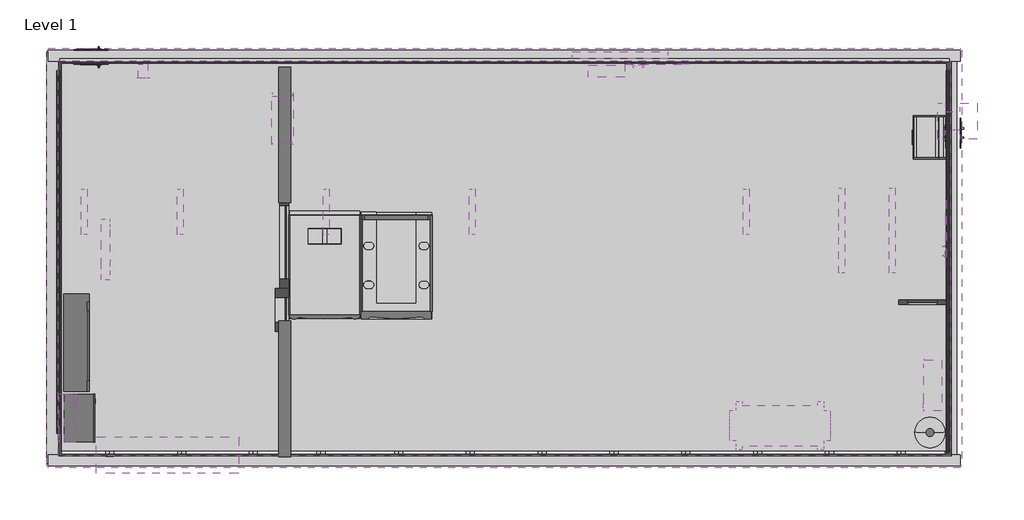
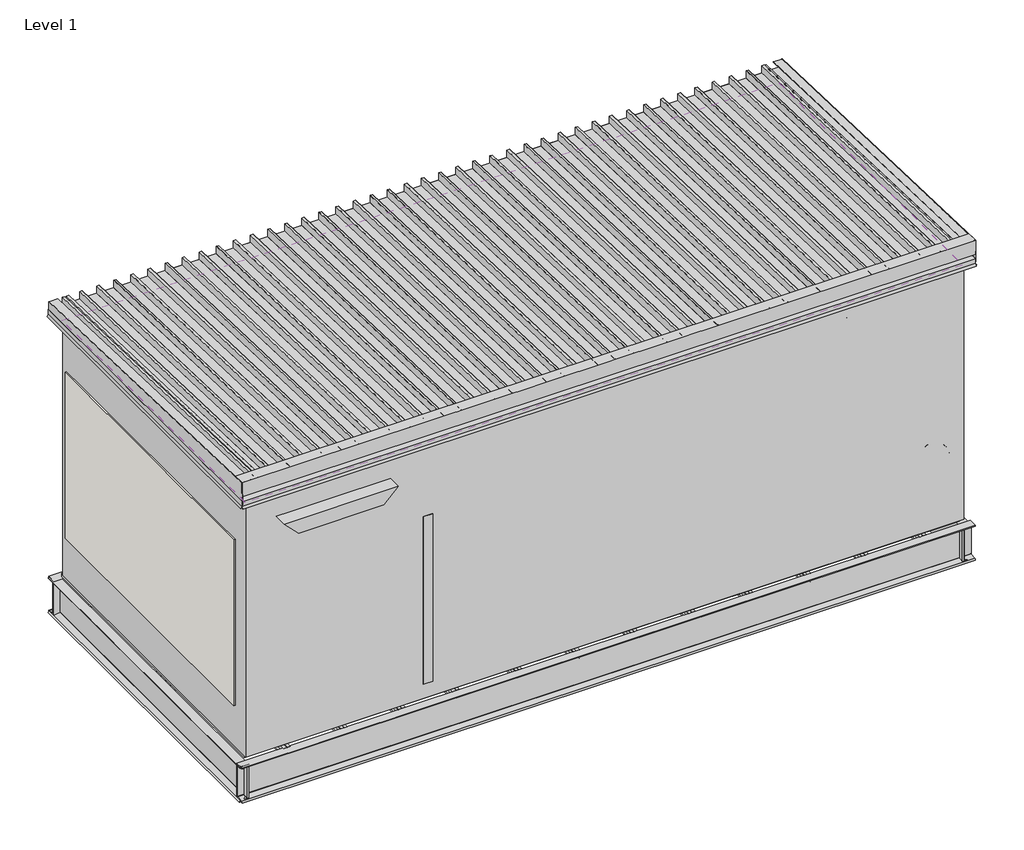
# One storey, incomplete: 22 beams, 18 proxies, 7 cable carrier fittings, 3 walls, 2 plates, 1 alarm, 1 covering.
"""IFC4 building model written with IfcOpenShell, lengths in millimetres."""

from ifc_helpers import new_model, si_unit, frame, origin, place, context, project, spatial, polyline, outline, extrude, transform, mapped, element, save
from components import cylinder_1_cylinder_1_a0b04ee7, beam_a0ba30f1, beam_48770743, base_cover_40kw_base_cover_40kw_a4d79b44, c381x94_58a36d87, c381x94_26746bf0, c381x96_e7f4985d, c381x96_1e17e779, foot_stand_and_door_shade_foot_stand_and_door_shade_9e24d134, i_channel_153x157_b665bd47, i_channel_2c100x6_7_e83eee92, i_channel_2c100x6_7_0b379793, roof_40kw_roof_40kw_a1198938, roof_40kw_roof_40kw_301b227a, electrical_equipment_14537a31, mechanical_equipment_66c16102, electrical_equipment_2e28253e, electrical_equipment_7de670ac, electrical_equipment_2ad26752, electrical_equipment_ff54cd8f, electrical_equipment_354cecee, proxy_120v_outlet_120v_outlet_0315f664, proxy_480v_208v_dbe15ef4, acf301em_404c859c, cp_100_control_panel_810ad4ae, climate_control_climate_control_2b801170, e2m_access_control_panel_011aee9f, fire_alarm_control_panel_67536681, generator_annunciator_panel_2783cb85, i_line_power_distribution_panel_board_enclosure_cbae9e6e, type_1_dec37a97, type_1_306bd327, hanger_cabletray_hanger_cabletray_1b30f011, hanger_cabletray_hanger_cabletray_7256ed64, system_panel_glazed_24b3d340, system_panel_glazed_cc63b6be

model = new_model("IFC4")

# Units and contexts
model_context = context("Model", 3, world=origin())
ifc_project = project(units=[si_unit("LENGTHUNIT", "METRE", prefix="MILLI")], contexts=[model_context])

# Site, building, storey
site = spatial("IfcSite", under=ifc_project)
building = spatial("IfcBuilding", under=site)
storey = spatial("IfcBuildingStorey", under=building, Name="Level 1", Elevation=0.0)

# Alarm
placement = place(None, origin())
cylinder_1_cylinder_1_shape = cylinder_1_cylinder_1_a0b04ee7(model_context)
element("IfcAlarm", 1, ObjectType="Cylinder-1 : Cylinder-1", at=placement, inside=storey, context=model_context, shape_type="MappedRepresentation", body=[
    mapped(cylinder_1_cylinder_1_shape, transform((3146.0911977, -3212.6424008, 424.0), x_axis=(1.0, 0.0, 0.0), y_axis=(0.0, 1.0, 0.0), z_axis=(0.0, 0.0, 1.0))),
])

# Beams
beam_shape = beam_a0ba30f1(model_context)
element("IfcBeam", 2, ObjectType="Insulation_config1 : Insulation_config1", at=placement, inside=storey, context=model_context, shape_type="MappedRepresentation", body=[
    mapped(beam_shape, transform((-4885.8033783, -3270.5466438, 0.0), x_axis=(1.0, 0.0, 0.0), y_axis=(0.0, 1.0, 0.0), z_axis=(0.0, 0.0, 1.0))),
])
beam_2_shape = beam_48770743(model_context)
element("IfcBeam", 3, ObjectType="Inside partition_Config1 : Inside partition_Config1", at=placement, inside=storey, context=model_context, shape_type="MappedRepresentation", body=[
    mapped(beam_2_shape, transform((-4881.0431616, -3258.0939026, 0.0), x_axis=(1.0, 0.0, 0.0), y_axis=(0.0, 1.0, 0.0), z_axis=(0.0, 0.0, 1.0))),
])
base_cover_40kw_base_cover_40kw_shape = base_cover_40kw_base_cover_40kw_a4d79b44(model_context)
element("IfcBeam", 4, ObjectType="Base_cover_40kW : Base_cover_40kW", at=placement, inside=storey, context=model_context, shape_type="MappedRepresentation", body=[
    mapped(base_cover_40kw_base_cover_40kw_shape, transform((-410.1108023, -1725.0452169, 0.0), x_axis=(1.0, 0.0, 0.0), y_axis=(0.0, 1.0, 0.0), z_axis=(0.0, 0.0, 1.0))),
])
c381x94_shape = c381x94_58a36d87(model_context)
element("IfcBeam", 5, ObjectType="M_C-Channel_305x105 : C381x94", at=placement, inside=storey, context=model_context, shape_type="MappedRepresentation", body=[
    mapped(c381x94_shape, transform((1621.9411968, -94.1542185, 190.5), x_axis=(-1.0, 0.0, 0.0), y_axis=(0.0, -1.0, 0.0), z_axis=(0.0, 0.0, 1.0))),
])
c381x94_2_shape = c381x94_26746bf0(model_context)
element("IfcBeam", 6, ObjectType="M_C-Channel_305x105 : C381x94", at=placement, inside=storey, context=model_context, shape_type="MappedRepresentation", body=[
    mapped(c381x94_2_shape, transform((4579.3711968, -3412.6642154, 190.5), x_axis=(-1.0, 0.0, 0.0), y_axis=(0.0, -1.0, 0.0), z_axis=(0.0, 0.0, 1.0))),
])
c381x96_shape = c381x96_e7f4985d(model_context)
element("IfcBeam", 7, ObjectType="M_C-Channel_305x105 : C381x96", at=placement, inside=storey, context=model_context, shape_type="MappedRepresentation", body=[
    mapped(c381x96_shape, transform((-4155.0018007, 50.6370472, 189.0), x_axis=(0.0, -1.0, 0.0), y_axis=(1.0, 0.0, 0.0), z_axis=(0.0, 0.0, 1.0))),
])
c381x96_2_shape = c381x96_1e17e779(model_context)
element("IfcBeam", 8, ObjectType="M_C-Channel_305x105 : C381x96", at=placement, inside=storey, context=model_context, shape_type="MappedRepresentation", body=[
    mapped(c381x96_2_shape, transform((3292.1211953, 50.6370472, 189.0), x_axis=(0.0, -1.0, 0.0), y_axis=(1.0, 0.0, 0.0), z_axis=(0.0, 0.0, 1.0))),
])
foot_stand_and_door_shade_foot_stand_and_door_shade_shape = foot_stand_and_door_shade_foot_stand_and_door_shade_9e24d134(model_context)
element("IfcBeam", 9, ObjectType="Foot Stand and Door shade : Foot Stand and Door shade", at=placement, inside=storey, context=model_context, shape_type="MappedRepresentation", body=[
    mapped(foot_stand_and_door_shade_foot_stand_and_door_shade_shape, transform((-3878.9508023, -3802.0092181, 0.0), x_axis=(1.0, 0.0, 0.0), y_axis=(0.0, 1.0, 0.0), z_axis=(0.0, 0.0, 1.0))),
])
i_channel_153x157_shape = i_channel_153x157_b665bd47(model_context)
element("IfcBeam", 10, ObjectType="I Channel : 153x157", at=placement, inside=storey, context=model_context, shape_type="MappedRepresentation", body=[
    mapped(i_channel_153x157_shape, transform((-1017.7885357, -1750.0452169, 202.5), x_axis=(1.0, 0.0, 0.0), y_axis=(0.0, 1.0, 0.0), z_axis=(0.0, 0.0, 1.0))),
])
i_channel_2c100x6_7_shape = i_channel_2c100x6_7_e83eee92(model_context)
element("IfcBeam", 11, ObjectType="I Channel : 2C100X6.7", at=placement, inside=storey, context=model_context, shape_type="MappedRepresentation", body=[
    mapped(i_channel_2c100x6_7_shape, transform((2906.0911977, -803.3983096, 332.5), x_axis=(0.0, -1.0, 0.0), y_axis=(1.0, 0.0, 0.0), z_axis=(0.0, 0.0, 1.0))),
])
element("IfcBeam", 12, ObjectType="I Channel : 2C100X6.7", at=placement, inside=storey, context=model_context, shape_type="MappedRepresentation", body=[
    mapped(i_channel_2c100x6_7_shape, transform((2306.0911977, -803.3983096, 332.5), x_axis=(0.0, -1.0, 0.0), y_axis=(1.0, 0.0, 0.0), z_axis=(0.0, 0.0, 1.0))),
])
element("IfcBeam", 13, ObjectType="I Channel : 2C100X6.7", at=placement, inside=storey, context=model_context, shape_type="MappedRepresentation", body=[
    mapped(i_channel_2c100x6_7_shape, transform((1706.0911977, -803.3983096, 332.5), x_axis=(0.0, -1.0, 0.0), y_axis=(1.0, 0.0, 0.0), z_axis=(0.0, 0.0, 1.0))),
])
element("IfcBeam", 14, ObjectType="I Channel : 2C100X6.7", at=placement, inside=storey, context=model_context, shape_type="MappedRepresentation", body=[
    mapped(i_channel_2c100x6_7_shape, transform((-1942.5318032, -803.3983096, 332.5), x_axis=(0.0, -1.0, 0.0), y_axis=(1.0, 0.0, 0.0), z_axis=(0.0, 0.0, 1.0))),
])
element("IfcBeam", 15, ObjectType="I Channel : 2C100X6.7", at=placement, inside=storey, context=model_context, shape_type="MappedRepresentation", body=[
    mapped(i_channel_2c100x6_7_shape, transform((1106.0911977, -803.3983096, 332.5), x_axis=(0.0, -1.0, 0.0), y_axis=(1.0, 0.0, 0.0), z_axis=(0.0, 0.0, 1.0))),
])
element("IfcBeam", 16, ObjectType="I Channel : 2C100X6.7", at=placement, inside=storey, context=model_context, shape_type="MappedRepresentation", body=[
    mapped(i_channel_2c100x6_7_shape, transform((-93.9088023, -803.3983096, 332.5), x_axis=(0.0, -1.0, 0.0), y_axis=(1.0, 0.0, 0.0), z_axis=(0.0, 0.0, 1.0))),
])
element("IfcBeam", 17, ObjectType="I Channel : 2C100X6.7", at=placement, inside=storey, context=model_context, shape_type="MappedRepresentation", body=[
    mapped(i_channel_2c100x6_7_shape, transform((-693.9088023, -803.3983096, 332.5), x_axis=(0.0, -1.0, 0.0), y_axis=(1.0, 0.0, 0.0), z_axis=(0.0, 0.0, 1.0))),
])
element("IfcBeam", 18, ObjectType="I Channel : 2C100X6.7", at=placement, inside=storey, context=model_context, shape_type="MappedRepresentation", body=[
    mapped(i_channel_2c100x6_7_shape, transform((-1293.9088023, -803.3983096, 332.5), x_axis=(0.0, -1.0, 0.0), y_axis=(1.0, 0.0, 0.0), z_axis=(0.0, 0.0, 1.0))),
])
element("IfcBeam", 19, ObjectType="I Channel : 2C100X6.7", at=placement, inside=storey, context=model_context, shape_type="MappedRepresentation", body=[
    mapped(i_channel_2c100x6_7_shape, transform((-3107.1108023, -803.3983096, 332.5), x_axis=(0.0, -1.0, 0.0), y_axis=(1.0, 0.0, 0.0), z_axis=(0.0, 0.0, 1.0))),
])
element("IfcBeam", 20, ObjectType="I Channel : 2C100X6.7", at=placement, inside=storey, context=model_context, shape_type="MappedRepresentation", body=[
    mapped(i_channel_2c100x6_7_shape, transform((-2507.1108023, -803.3983096, 332.5), x_axis=(0.0, -1.0, 0.0), y_axis=(1.0, 0.0, 0.0), z_axis=(0.0, 0.0, 1.0))),
])
element("IfcBeam", 21, ObjectType="I Channel : 2C100X6.7", at=placement, inside=storey, context=model_context, shape_type="MappedRepresentation", body=[
    mapped(i_channel_2c100x6_7_shape, transform((506.0911977, -803.3983096, 332.5), x_axis=(0.0, -1.0, 0.0), y_axis=(1.0, 0.0, 0.0), z_axis=(0.0, 0.0, 1.0))),
])
i_channel_2c100x6_7_2_shape = i_channel_2c100x6_7_0b379793(model_context)
element("IfcBeam", 22, ObjectType="I Channel : 2C100X6.7", at=placement, inside=storey, context=model_context, shape_type="MappedRepresentation", body=[
    mapped(i_channel_2c100x6_7_2_shape, transform((-3707.1108023, -810.2163102, 332.5), x_axis=(0.0, -1.0, 0.0), y_axis=(1.0, 0.0, 0.0), z_axis=(0.0, 0.0, 1.0))),
])
roof_40kw_roof_40kw_shape = roof_40kw_roof_40kw_a1198938(model_context)
roof_40kw_roof_40kw_2_shape = roof_40kw_roof_40kw_301b227a(model_context)
element("IfcBeam", 23, ObjectType="Roof_40kW : Roof_40kW", at=placement, inside=storey, context=model_context, shape_type="MappedRepresentation", body=[
    mapped(roof_40kw_roof_40kw_shape, transform((-412.1108023, -3478.4989779, 0.0), x_axis=(1.0, 0.0, 0.0), y_axis=(0.0, 1.0, 0.0), z_axis=(0.0, 0.0, 1.0))),
    mapped(roof_40kw_roof_40kw_2_shape, transform((-412.1108023, -3478.4989779, 0.0), x_axis=(1.0, 0.0, 0.0), y_axis=(0.0, 1.0, 0.0), z_axis=(0.0, 0.0, 1.0))),
])

# Proxies
electrical_equipment_shape = electrical_equipment_14537a31(model_context)
element("IfcBuildingElementProxy", 24, Name="UPS_Symmetra_PX_40_Schneider_Electric_10-40kVA_208V_BIM_Model : SY40K40F", ObjectType="UPS_Symmetra_PX_40_Schneider_Electric_10-40kVA_208V_BIM_Model : SY40K40F", at=placement, inside=storey, context=model_context, shape_type="MappedRepresentation", body=[
    mapped(electrical_equipment_shape, transform((-1911.1555951, -1811.453713, 424.0), x_axis=(1.0, 0.0, 0.0), y_axis=(0.0, 1.0, 0.0), z_axis=(0.0, 0.0, 1.0))),
])
mechanical_equipment_shape = mechanical_equipment_66c16102(model_context)
element("IfcBuildingElementProxy", 25, Name="Dehumidifier2 : Dehumidifier2", ObjectType="Dehumidifier2 : Dehumidifier2", at=placement, inside=storey, context=model_context, shape_type="MappedRepresentation", body=[
    mapped(mechanical_equipment_shape, transform((1891.8891977, -3358.1846423, 2844.0), x_axis=(1.0, 0.0, 0.0), y_axis=(0.0, 1.0, 0.0), z_axis=(0.0, 0.0, 1.0))),
])
electrical_equipment_2_shape = electrical_equipment_2e28253e(model_context)
element("IfcBuildingElementProxy", 26, Name="Distribution_Sockets : Distribution_Sockets", ObjectType="Distribution_Sockets : Distribution_Sockets", at=placement, inside=storey, context=model_context, shape_type="MappedRepresentation", body=[
    mapped(electrical_equipment_2_shape, transform((940.5210102, -72.4452707, 2991.0), x_axis=(1.0, 0.0, 0.0), y_axis=(0.0, 1.0, 0.0), z_axis=(0.0, 0.0, 1.0))),
])
electrical_equipment_3_shape = electrical_equipment_7de670ac(model_context)
element("IfcBuildingElementProxy", 27, Name="Distribution_Sockets : Distribution_Sockets", ObjectType="Distribution_Sockets : Distribution_Sockets", at=placement, inside=storey, context=model_context, shape_type="MappedRepresentation", body=[
    mapped(electrical_equipment_3_shape, transform((3340.5944046, -1466.0452341, 2991.0), x_axis=(0.0, 1.0, 0.0), y_axis=(-1.0, 0.0, 0.0), z_axis=(0.0, 0.0, 1.0))),
])
electrical_equipment_4_shape = electrical_equipment_2ad26752(model_context)
element("IfcBuildingElementProxy", 28, Name="Distribution_Socket_4_rotated : Distribution_Socket_4_rotated", ObjectType="Distribution_Socket_4_rotated : Distribution_Socket_4_rotated", at=placement, inside=storey, context=model_context, shape_type="MappedRepresentation", body=[
    mapped(electrical_equipment_4_shape, transform((-3865.1108023, -72.0452169, 749.3801703), x_axis=(1.0, 0.0, 0.0), y_axis=(0.0, 1.0, 0.0), z_axis=(0.0, 0.0, 1.0))),
])
electrical_equipment_5_shape = electrical_equipment_ff54cd8f(model_context)
element("IfcBuildingElementProxy", 29, Name="Distribution_Socket_Single_rotated : Distribution_Socket_Single_rotated", ObjectType="Distribution_Socket_Single_rotated : Distribution_Socket_Single_rotated", at=placement, inside=storey, context=model_context, shape_type="MappedRepresentation", body=[
    mapped(electrical_equipment_5_shape, transform((3340.0944046, -708.5205494, 573.2220356), x_axis=(0.0, 1.0, 0.0), y_axis=(-1.0, 0.0, 0.0), z_axis=(0.0, 0.0, 1.0))),
])
electrical_equipment_6_shape = electrical_equipment_354cecee(model_context)
element("IfcBuildingElementProxy", 30, Name="DX_InRow_Control : DX_InRow_Control", ObjectType="DX_InRow_Control : DX_InRow_Control", at=placement, inside=storey, context=model_context, shape_type="MappedRepresentation", body=[
    mapped(electrical_equipment_6_shape, transform((568.0161968, -55.5702707, 2698.0), x_axis=(-1.0, 0.0, 0.0), y_axis=(0.0, -1.0, 0.0), z_axis=(0.0, 0.0, 1.0))),
])
proxy_120v_outlet_120v_outlet_shape = proxy_120v_outlet_120v_outlet_0315f664(model_context)
element("IfcBuildingElementProxy", 31, Name="120V Outlet : 120V Outlet", ObjectType="120V Outlet : 120V Outlet", at=placement, inside=storey, context=model_context, shape_type="MappedRepresentation", body=[
    mapped(proxy_120v_outlet_120v_outlet_shape, transform((-3430.3108023, -72.2452438, -0.0755609), x_axis=(-1.0, 0.0, 0.0), y_axis=(0.0, -1.0, 0.0), z_axis=(0.0, 0.0, 1.0))),
])
proxy_480v_208v_shape = proxy_480v_208v_dbe15ef4(model_context)
element("IfcBuildingElementProxy", 32, Name="PD40G6FK1-M_-_InfraStruxure_PDU_40kW,_480V_In,_208V_Out_with_MBP_BIM_MODEL : 480V/208V", ObjectType="PD40G6FK1-M_-_InfraStruxure_PDU_40kW,_480V_In,_208V_Out_with_MBP_BIM_MODEL : 480V/208V", at=placement, inside=storey, context=model_context, shape_type="MappedRepresentation", body=[
    mapped(proxy_480v_208v_shape, transform((-1312.6555951, -1811.7537194, 424.0), x_axis=(1.0, 0.0, 0.0), y_axis=(0.0, 1.0, 0.0), z_axis=(0.0, 0.0, 1.0))),
])
acf301em_shape = acf301em_404c859c(model_context)
element("IfcBuildingElementProxy", 33, Name="ACF301EM - Wiring_Closet_Ventillation_Unit : ACF301EM", ObjectType="ACF301EM - Wiring_Closet_Ventillation_Unit : ACF301EM", at=placement, inside=storey, context=model_context, shape_type="MappedRepresentation", body=[
    mapped(acf301em_shape, transform((-2472.1108023, -596.3735943, 2845.5), x_axis=(0.0, 1.0, 0.0), y_axis=(-1.0, 0.0, 0.0), z_axis=(0.0, 0.0, 1.0))),
])
cp_100_control_panel_shape = cp_100_control_panel_810ad4ae(model_context)
element("IfcBuildingElementProxy", 34, Name="CP-100_Control_Panel_Wallmount_BIM_Model : CP-100 Control panel", ObjectType="CP-100_Control_Panel_Wallmount_BIM_Model : CP-100 Control panel", at=placement, inside=storey, context=model_context, shape_type="MappedRepresentation", body=[
    mapped(cp_100_control_panel_shape, transform((-4159.0310929, -2967.7260437, 66.0), x_axis=(0.0, -1.0, 0.0), y_axis=(1.0, 0.0, 0.0), z_axis=(0.0, 0.0, 1.0))),
])
climate_control_climate_control_shape = climate_control_climate_control_2b801170(model_context)
element("IfcBuildingElementProxy", 35, Name="Climate Control : Climate Control", ObjectType="Climate Control : Climate Control", at=placement, inside=storey, context=model_context, shape_type="MappedRepresentation", body=[
    mapped(climate_control_climate_control_shape, transform((3321.0745384, -757.0452169, 2650.0), x_axis=(0.0, 1.0000000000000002, 0.0), y_axis=(-1.0000000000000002, 0.0, 0.0), z_axis=(0.0, 0.0, 1.0))),
])
e2m_access_control_panel_shape = e2m_access_control_panel_011aee9f(model_context)
element("IfcBuildingElementProxy", 36, Name="E2M_Access_Control_Panel_Wallmount_BIM_Model : E2M-Access Control Panel", ObjectType="E2M_Access_Control_Panel_Wallmount_BIM_Model : E2M-Access Control Panel", at=placement, inside=storey, context=model_context, shape_type="MappedRepresentation", body=[
    mapped(e2m_access_control_panel_shape, transform((-4178.6108023, -3092.7260437, 822.0354149), x_axis=(0.0, -1.0, 0.0), y_axis=(1.0, 0.0, 0.0), z_axis=(0.0, 0.0, 1.0))),
])
fire_alarm_control_panel_shape = fire_alarm_control_panel_67536681(model_context)
element("IfcBuildingElementProxy", 37, Name="Fire_Alarm_Control_Panel_Wallmount_BIM_Model : Fire Alarm Control Panel", ObjectType="Fire_Alarm_Control_Panel_Wallmount_BIM_Model : Fire Alarm Control Panel", at=placement, inside=storey, context=model_context, shape_type="MappedRepresentation", body=[
    mapped(fire_alarm_control_panel_shape, transform((3295.0944046, -2943.6153667, 1143.0), x_axis=(0.0, 1.0, 0.0), y_axis=(-1.0, 0.0, 0.0), z_axis=(0.0, 0.0, 1.0))),
])
generator_annunciator_panel_shape = generator_annunciator_panel_2783cb85(model_context)
element("IfcBuildingElementProxy", 38, Name="Generator_Annunciator_Panel_Wallmount_BIM_Model : Generator Annunciator Panel", ObjectType="Generator_Annunciator_Panel_Wallmount_BIM_Model : Generator Annunciator Panel", at=placement, inside=storey, context=model_context, shape_type="MappedRepresentation", body=[
    mapped(generator_annunciator_panel_shape, transform((-4163.5327601, -2967.9902589, 836.0), x_axis=(0.0, -1.0, 0.0), y_axis=(1.0, 0.0, 0.0), z_axis=(0.0, 0.0, 1.0))),
])
i_line_power_distribution_panel_board_enclosure_shape = i_line_power_distribution_panel_board_enclosure_cbae9e6e(model_context)
element("IfcBuildingElementProxy", 39, Name="I-Line_Power_Distribution_Panel_Board_Enclosure_MDP-100_BIM_Model : I-Line Power Distribution Panel Board Enclosure", ObjectType="I-Line_Power_Distribution_Panel_Board_Enclosure_MDP-100_BIM_Model : I-Line Power Distribution Panel Board Enclosure", at=placement, inside=storey, context=model_context, shape_type="MappedRepresentation", body=[
    mapped(i_line_power_distribution_panel_board_enclosure_shape, transform((-3985.0258413, -2461.4898784, 424.0), x_axis=(0.0, 1.0000000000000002, 0.0), y_axis=(-1.0000000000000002, 0.0, 0.0), z_axis=(0.0, 0.0, 1.0))),
])
type_1_shape = type_1_dec37a97(model_context)
element("IfcBuildingElementProxy", 40, Name="UE001 - Carel_Humidifier_Wallmount_BIM_Model : Type 1", ObjectType="UE001 - Carel_Humidifier_Wallmount_BIM_Model : Type 1", at=placement, inside=storey, context=model_context, shape_type="MappedRepresentation", body=[
    mapped(type_1_shape, transform((3295.0944046, -741.8695011, 376.2875), x_axis=(0.0, 1.0, 0.0), y_axis=(-1.0, 0.0, 0.0), z_axis=(0.0, 0.0, 1.0))),
])
type_1_2_shape = type_1_306bd327(model_context)
element("IfcBuildingElementProxy", 41, Name="PDB-200 - 208V_OR_120V_Distribution_Panel_Wallmount_BIM_Model : Type 1", ObjectType="PDB-200 - 208V_OR_120V_Distribution_Panel_Wallmount_BIM_Model : Type 1", at=placement, inside=storey, context=model_context, shape_type="MappedRepresentation", body=[
    mapped(type_1_2_shape, transform((-4163.5327601, -1681.2156673, 601.7698381), x_axis=(0.0, -1.0, 0.0), y_axis=(1.0, 0.0, 0.0), z_axis=(0.0, 0.0, 1.0))),
])

# Cable carrier fittings
hanger_cabletray_hanger_cabletray_shape = hanger_cabletray_hanger_cabletray_1b30f011(model_context)
element("IfcCableCarrierFitting", 42, ObjectType="Hanger_CableTray : Hanger_CableTray", at=placement, inside=storey, context=model_context, shape_type="MappedRepresentation", body=[
    mapped(hanger_cabletray_hanger_cabletray_shape, transform((-3919.5012088, -1203.2452169, 2832.0), x_axis=(0.0, 1.0, 0.0), y_axis=(-1.0, 0.0, 0.0), z_axis=(0.0, 0.0, 1.0))),
])
element("IfcCableCarrierFitting", 43, ObjectType="Hanger_CableTray : Hanger_CableTray", at=placement, inside=storey, context=model_context, shape_type="MappedRepresentation", body=[
    mapped(hanger_cabletray_hanger_cabletray_shape, transform((-3117.8137088, -1203.2452169, 2832.0), x_axis=(0.0, 1.0, 0.0), y_axis=(-1.0, 0.0, 0.0), z_axis=(0.0, 0.0, 1.0))),
])
element("IfcCableCarrierFitting", 44, ObjectType="Hanger_CableTray : Hanger_CableTray", at=placement, inside=storey, context=model_context, shape_type="MappedRepresentation", body=[
    mapped(hanger_cabletray_hanger_cabletray_shape, transform((-1898.6137088, -1203.2452169, 2832.0), x_axis=(0.0, 1.0, 0.0), y_axis=(-1.0, 0.0, 0.0), z_axis=(0.0, 0.0, 1.0))),
])
element("IfcCableCarrierFitting", 45, ObjectType="Hanger_CableTray : Hanger_CableTray", at=placement, inside=storey, context=model_context, shape_type="MappedRepresentation", body=[
    mapped(hanger_cabletray_hanger_cabletray_shape, transform((-679.4137088, -1203.2452169, 2832.0), x_axis=(0.0, 1.0, 0.0), y_axis=(-1.0, 0.0, 0.0), z_axis=(0.0, 0.0, 1.0))),
])
element("IfcCableCarrierFitting", 46, ObjectType="Hanger_CableTray : Hanger_CableTray", at=placement, inside=storey, context=model_context, shape_type="MappedRepresentation", body=[
    mapped(hanger_cabletray_hanger_cabletray_shape, transform((1610.4862941, -1203.2452169, 2832.0), x_axis=(0.0, 1.0, 0.0), y_axis=(-1.0, 0.0, 0.0), z_axis=(0.0, 0.0, 1.0))),
])
hanger_cabletray_hanger_cabletray_2_shape = hanger_cabletray_hanger_cabletray_7256ed64(model_context)
element("IfcCableCarrierFitting", 47, ObjectType="Hanger_CableTray : Hanger_CableTray", at=placement, inside=storey, context=model_context, shape_type="MappedRepresentation", body=[
    mapped(hanger_cabletray_hanger_cabletray_2_shape, transform((2829.6862926, -1523.2452169, 2832.0), x_axis=(0.0, 1.0, 0.0), y_axis=(-1.0, 0.0, 0.0), z_axis=(0.0, 0.0, 1.0))),
])
element("IfcCableCarrierFitting", 48, ObjectType="Hanger_CableTray : Hanger_CableTray", at=placement, inside=storey, context=model_context, shape_type="MappedRepresentation", body=[
    mapped(hanger_cabletray_hanger_cabletray_2_shape, transform((2409.6862926, -1523.2452169, 2832.0), x_axis=(0.0, 1.0, 0.0), y_axis=(-1.0, 0.0, 0.0), z_axis=(0.0, 0.0, 1.0))),
])

# Covering
element("IfcCovering", 49, ObjectType="GWB on Mtl Stud", at=placement, inside=storey, context=model_context, shape_type="SweptSolid", body=[
    extrude(outline(polyline([(3313.8444046, -104.4452169), (3313.8444046, -3406.1092181), (-4137.4390101, -3406.1092181), (-4137.4390101, -104.4452169), (3313.8444046, -104.4452169)])), frame((0.0, 0.0, 3219.0), z_axis=(0.0, 0.0, 1.0), x_axis=(1.0, 0.0, 0.0)), (0.0, 0.0, 1.0), 107.95),
])

# Plates
system_panel_glazed_shape = system_panel_glazed_24b3d340(model_context)
element("IfcPlate", 50, ObjectType="System Panel : Glazed", at=placement, inside=storey, context=model_context, shape_type="MappedRepresentation", body=[
    mapped(system_panel_glazed_shape, transform((-2346.6555954, -722.5213773, 424.0), x_axis=(0.0, -1.0, 0.0), y_axis=(1.0, 0.0, 0.0), z_axis=(0.0, 0.0, 1.0))),
])
system_panel_glazed_2_shape = system_panel_glazed_cc63b6be(model_context)
element("IfcPlate", 51, ObjectType="System Panel : Glazed", at=placement, inside=storey, context=model_context, shape_type="MappedRepresentation", body=[
    mapped(system_panel_glazed_2_shape, transform((-2344.1555954, -2847.8967569, 582.4721745), x_axis=(0.0, -1.0, 0.0), y_axis=(1.0, 0.0, 0.0), z_axis=(0.0, 0.0, 1.0))),
])

# Walls
element("IfcWall", 52, ObjectType="Generic - 100mm 2", at=placement, inside=storey, context=model_context, shape_type="SweptSolid", body=[
    extrude(outline(polyline([(155.3457789, -26.5702707), (955.3457789, -26.5702707), (955.3457789, -84.5702707), (155.3457789, -84.5702707), (155.3457789, -26.5702707)])), frame((0.0, 0.0, 2656.9378237), z_axis=(0.0, 0.0, 1.0), x_axis=(1.0, 0.0, 0.0)), (0.0, 0.0, 1.0), 424.6595009),
])
element("IfcWall", 53, ObjectType="Generic - 50mm 2", at=placement, inside=storey, context=model_context, shape_type="SweptSolid", body=[
    extrude(outline(polyline([(-4126.0327601, -185.5841094), (-4126.0327601, -3221.4685273), (-4151.0327601, -3221.4685273), (-4151.0327601, -185.5841094), (-4126.0327601, -185.5841094)])), frame((0.0, 0.0, 878.857313), z_axis=(0.0, 0.0, 1.0), x_axis=(1.0, 0.0, 0.0)), (0.0, 0.0, 1.0), 1824.0926969),
])
element("IfcWall", 54, ObjectType="Generic - 50mm 2", at=placement, inside=storey, context=model_context, shape_type="SweptSolid", body=[
    extrude(outline(polyline([(3307.5944046, -185.5841094), (3307.5944046, -3376.7732169), (3282.5944046, -3376.7732169), (3282.5944046, -185.5841094), (3307.5944046, -185.5841094)])), frame((0.0, 0.0, 424.0), z_axis=(0.0, 0.0, 1.0), x_axis=(1.0, 0.0, 0.0)), (0.0, 0.0, 1.0), 928.5059258),
])

save(model, "model.ifc")
